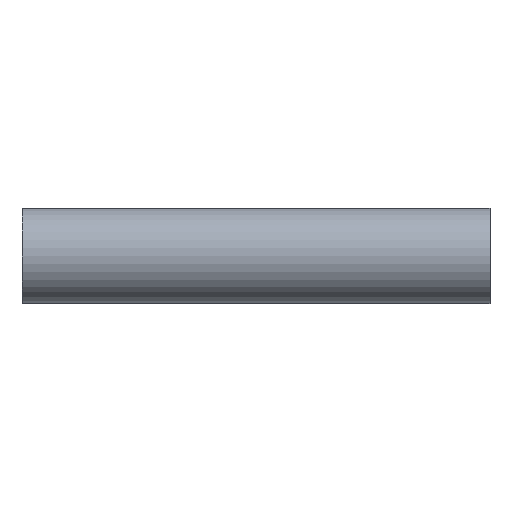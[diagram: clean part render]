
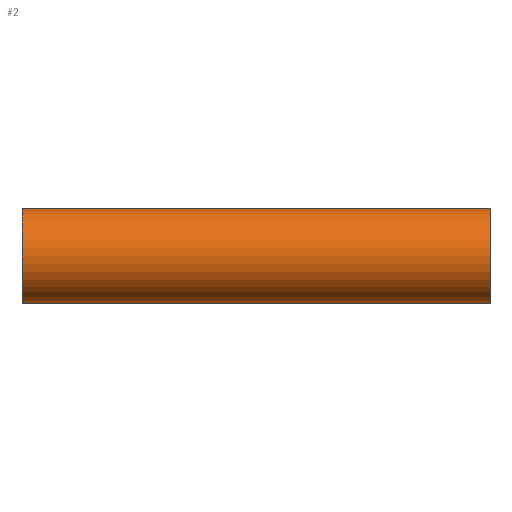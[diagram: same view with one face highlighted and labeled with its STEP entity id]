
A CAD part, front view. The second image highlights one B-rep face of the part: STEP entity #2.
In plain terms, the highlighted cylindrical face has radius 19.05 mm (diameter 38.1 mm), a partial arc.
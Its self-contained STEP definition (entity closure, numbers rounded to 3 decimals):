
#2 = ADVANCED_FACE ( 'NONE', ( #49 ), #226, .T. ) ;
#8 = DIRECTION ( 'NONE',  ( 0., 0., -1. ) ) ;
#20 = AXIS2_PLACEMENT_3D ( 'NONE', #66, #148, #109 ) ;
#24 = VECTOR ( 'NONE', #184, 1000. ) ;
#29 = AXIS2_PLACEMENT_3D ( 'NONE', #443, #191, #160 ) ;
#42 = ORIENTED_EDGE ( 'NONE', *, *, #370, .T. ) ;
#49 = FACE_OUTER_BOUND ( 'NONE', #224, .T. ) ;
#51 = CARTESIAN_POINT ( 'NONE',  ( 157.2, 0., 0. ) ) ;
#66 = CARTESIAN_POINT ( 'NONE',  ( -30.2, 0., 0. ) ) ;
#69 = CARTESIAN_POINT ( 'NONE',  ( 0., 0., -19.05 ) ) ;
#73 = CARTESIAN_POINT ( 'NONE',  ( -30.2, 0., 19.05 ) ) ;
#83 = CARTESIAN_POINT ( 'NONE',  ( 157.2, 0., 19.05 ) ) ;
#84 = VERTEX_POINT ( 'NONE', #73 ) ;
#88 = ORIENTED_EDGE ( 'NONE', *, *, #222, .T. ) ;
#98 = VERTEX_POINT ( 'NONE', #83 ) ;
#106 = CARTESIAN_POINT ( 'NONE',  ( -30.2, 0., -19.05 ) ) ;
#109 = DIRECTION ( 'NONE',  ( 0., 0., -1. ) ) ;
#110 = DIRECTION ( 'NONE',  ( 1., 0., 0. ) ) ;
#122 = CIRCLE ( 'NONE', #249, 19.05 ) ;
#148 = DIRECTION ( 'NONE',  ( 1., 0., 0. ) ) ;
#154 = CARTESIAN_POINT ( 'NONE',  ( -30.2, 0., 19.05 ) ) ;
#157 = CARTESIAN_POINT ( 'NONE',  ( -30.2, 0., -19.05 ) ) ;
#160 = DIRECTION ( 'NONE',  ( 0., 0., -1. ) ) ;
#161 = CARTESIAN_POINT ( 'NONE',  ( -30.2, 0., -19.05 ) ) ;
#184 = DIRECTION ( 'NONE',  ( 1., 0., 0. ) ) ;
#191 = DIRECTION ( 'NONE',  ( 1., 0., 0. ) ) ;
#222 = EDGE_CURVE ( 'NONE', #284, #98, #122, .T. ) ;
#224 = EDGE_LOOP ( 'NONE', ( #232, #235, #42, #392, #88, #444 ) ) ;
#226 = CYLINDRICAL_SURFACE ( 'NONE', #20, 19.05 ) ;
#232 = ORIENTED_EDGE ( 'NONE', *, *, #282, .F. ) ;
#235 = ORIENTED_EDGE ( 'NONE', *, *, #311, .T. ) ;
#236 = DIRECTION ( 'NONE',  ( -1., 0., 0. ) ) ;
#249 = AXIS2_PLACEMENT_3D ( 'NONE', #51, #236, #8 ) ;
#270 = CARTESIAN_POINT ( 'NONE',  ( 0., 0., 19.05 ) ) ;
#282 = EDGE_CURVE ( 'NONE', #84, #304, #302, .T. ) ;
#284 = VERTEX_POINT ( 'NONE', #383 ) ;
#302 = LINE ( 'NONE', #154, #378 ) ;
#304 = VERTEX_POINT ( 'NONE', #270 ) ;
#309 = CIRCLE ( 'NONE', #29, 19.05 ) ;
#311 = EDGE_CURVE ( 'NONE', #84, #324, #309, .T. ) ;
#324 = VERTEX_POINT ( 'NONE', #161 ) ;
#344 = DIRECTION ( 'NONE',  ( 1., 0., 0. ) ) ;
#365 = EDGE_CURVE ( 'NONE', #431, #284, #400, .T. ) ;
#370 = EDGE_CURVE ( 'NONE', #324, #431, #384, .T. ) ;
#378 = VECTOR ( 'NONE', #110, 1000. ) ;
#382 = DIRECTION ( 'NONE',  ( 1., 0., 0. ) ) ;
#383 = CARTESIAN_POINT ( 'NONE',  ( 157.2, 0., -19.05 ) ) ;
#384 = LINE ( 'NONE', #157, #390 ) ;
#390 = VECTOR ( 'NONE', #344, 1000. ) ;
#392 = ORIENTED_EDGE ( 'NONE', *, *, #365, .T. ) ;
#400 = LINE ( 'NONE', #106, #426 ) ;
#426 = VECTOR ( 'NONE', #382, 1000. ) ;
#430 = EDGE_CURVE ( 'NONE', #304, #98, #448, .T. ) ;
#431 = VERTEX_POINT ( 'NONE', #69 ) ;
#436 = CARTESIAN_POINT ( 'NONE',  ( -30.2, 0., 19.05 ) ) ;
#443 = CARTESIAN_POINT ( 'NONE',  ( -30.2, 0., 0. ) ) ;
#444 = ORIENTED_EDGE ( 'NONE', *, *, #430, .F. ) ;
#448 = LINE ( 'NONE', #436, #24 ) ;
